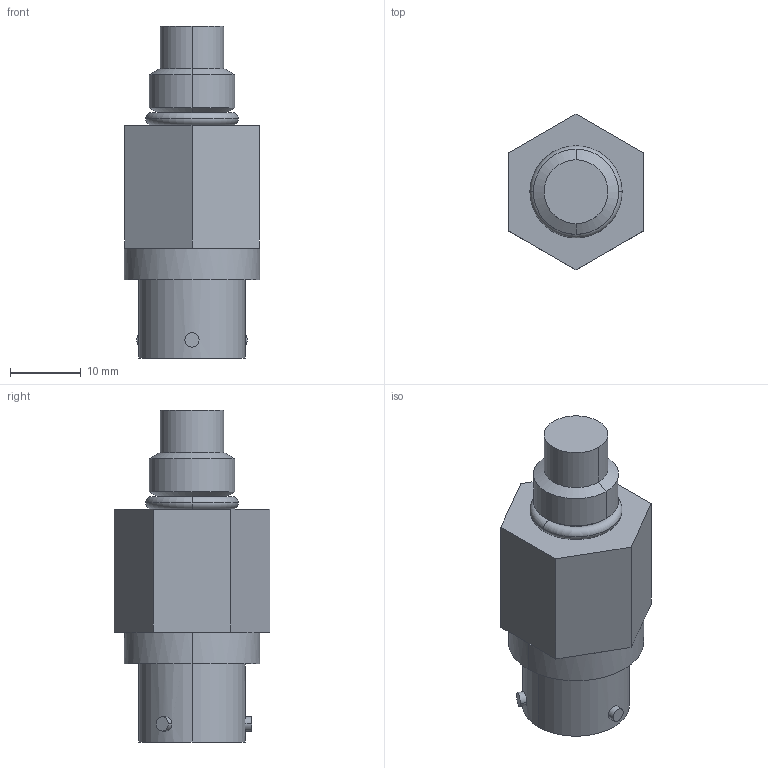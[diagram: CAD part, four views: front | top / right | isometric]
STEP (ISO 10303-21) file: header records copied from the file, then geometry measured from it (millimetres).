
FILE_DESCRIPTION(('STEP AP214'),'1');
FILE_NAME('burster_81530-10_ee78nwa00vdfq5o9r2eezo3gv.stp','2017-04-19T14:52:50',('TraceParts'),('TraceParts S.A.'),'Spatial InterOp 3D',' ',' ');
FILE_SCHEMA(('automotive_design'));
Length unit declared in the file: millimetre
Products named in the file (1): Volumenkörper1
Bounding box: 19.1 x 21.94 x 46.8 mm (x, y, z)
Volume: 8586.8 mm3; surface area: 3818.7 mm2
Topology: 1 solids, 2 shells, 79 faces, 170 edges, 106 vertices
Faces by surface type: plane 36, cylinder 33, torus 6, cone 4
Entity records: 2904 total; most frequent: CARTESIAN_POINT 458, DIRECTION 412, ORIENTED_EDGE 340, EDGE_CURVE 170, AXIS2_PLACEMENT_3D 168, VERTEX_POINT 106, EDGE_LOOP 92, CIRCLE 88
